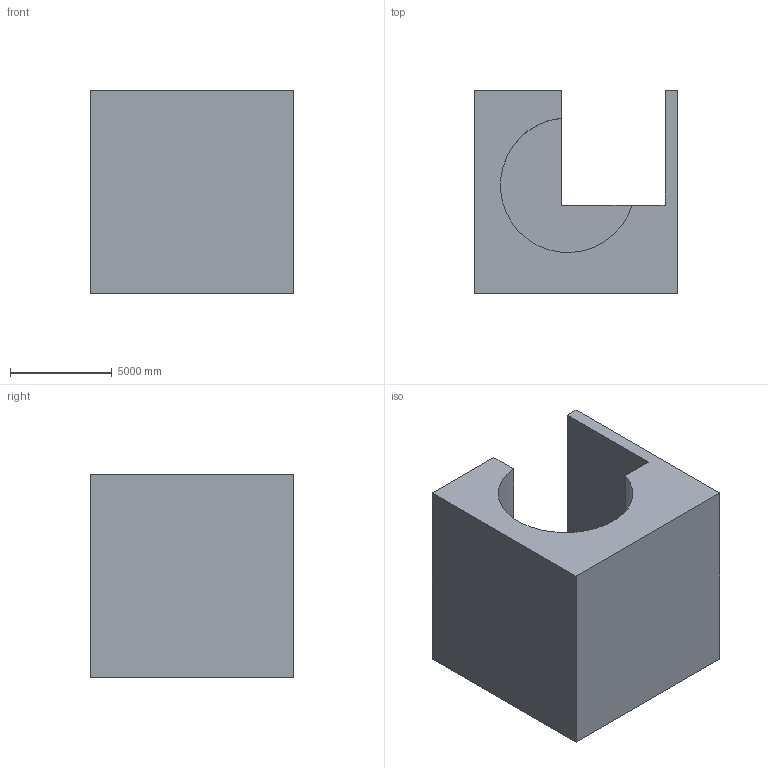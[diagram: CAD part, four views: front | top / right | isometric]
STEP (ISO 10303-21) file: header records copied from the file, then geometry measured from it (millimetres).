
FILE_DESCRIPTION (( 'STEP AP203' ), '1' );
FILE_NAME ('56.STEP', '2022-07-28T13:30:30', ( 'user' ), ( '' ), 'SwSTEP 2.0', 'SolidWorks 2021', '' );
FILE_SCHEMA (( 'CONFIG_CONTROL_DESIGN' ));
Length unit declared in the file: centimetre
Products named in the file (1): 56
Bounding box: 10000 x 10000 x 10000 mm (x, y, z)
Volume: 598847520642 mm3; surface area: 690153145.2 mm2
Topology: 1 solids, 1 shells, 12 faces, 30 edges, 20 vertices
Faces by surface type: plane 11, cylinder 1
Entity records: 433 total; most frequent: CARTESIAN_POINT 63, ORIENTED_EDGE 60, DIRECTION 58, EDGE_CURVE 30, LINE 28, VECTOR 28, VERTEX_POINT 20, AXIS2_PLACEMENT_3D 15
